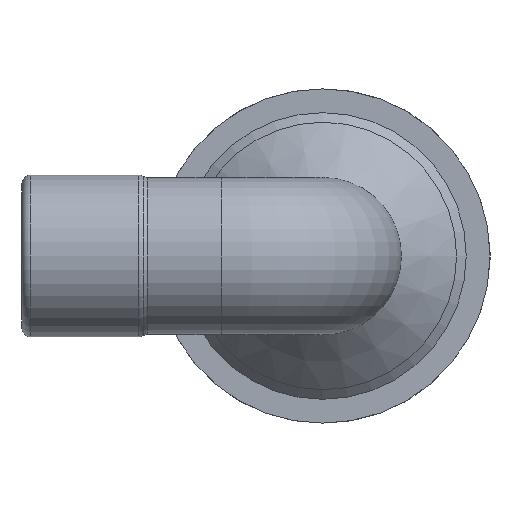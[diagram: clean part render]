
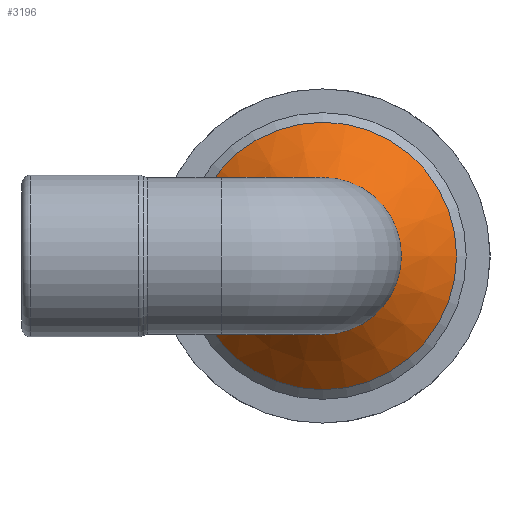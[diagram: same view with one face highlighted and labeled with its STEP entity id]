
A CAD part, left-side view. The second image highlights one B-rep face of the part: STEP entity #3196.
In plain terms, the highlighted conical face has half-angle 45 degrees and reference radius 15.873 mm.
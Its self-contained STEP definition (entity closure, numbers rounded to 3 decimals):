
#22=CONICAL_SURFACE('',#3578,15.873,45.);
#638=FACE_BOUND('',#1074,.T.);
#849=FACE_OUTER_BOUND('',#1073,.T.);
#1073=EDGE_LOOP('',(#2910));
#1074=EDGE_LOOP('',(#2911));
#1100=CIRCLE('',#3216,11.747);
#1266=CIRCLE('',#3579,20.);
#1279=VERTEX_POINT('',#4572);
#1541=VERTEX_POINT('',#6067);
#1554=EDGE_CURVE('',#1279,#1279,#1100,.T.);
#2002=EDGE_CURVE('',#1541,#1541,#1266,.T.);
#2910=ORIENTED_EDGE('',*,*,#2002,.F.);
#2911=ORIENTED_EDGE('',*,*,#1554,.T.);
#3196=ADVANCED_FACE('',(#849,#638),#22,.T.);
#3216=AXIS2_PLACEMENT_3D('',#4573,#3614,#3615);
#3578=AXIS2_PLACEMENT_3D('',#6066,#4518,#4519);
#3579=AXIS2_PLACEMENT_3D('',#6068,#4520,#4521);
#3614=DIRECTION('center_axis',(1.,0.,0.));
#3615=DIRECTION('ref_axis',(0.,0.,-1.));
#4518=DIRECTION('center_axis',(1.,0.,0.));
#4519=DIRECTION('ref_axis',(0.,1.,0.));
#4520=DIRECTION('center_axis',(1.,0.,0.));
#4521=DIRECTION('ref_axis',(0.,0.,-1.));
#4572=CARTESIAN_POINT('',(15.2,11.747,0.));
#4573=CARTESIAN_POINT('Origin',(15.2,0.,0.));
#6066=CARTESIAN_POINT('Origin',(19.327,0.,0.));
#6067=CARTESIAN_POINT('',(23.453,20.,0.));
#6068=CARTESIAN_POINT('Origin',(23.453,0.,0.));
